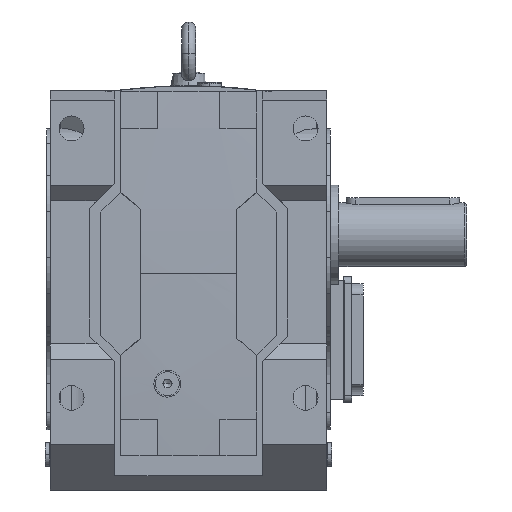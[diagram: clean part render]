
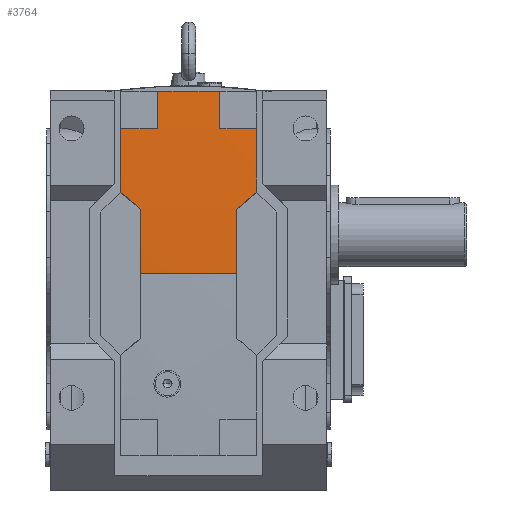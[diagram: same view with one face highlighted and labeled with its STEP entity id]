
A CAD part, front view. The second image highlights one B-rep face of the part: STEP entity #3764.
In plain terms, the highlighted spherical face has radius 2000.58 mm.
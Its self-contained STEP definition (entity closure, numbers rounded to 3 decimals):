
#3764=ADVANCED_FACE('',(#7769),#7770,.T.);
#7769=FACE_OUTER_BOUND('',#12141,.T.);
#7770=SPHERICAL_SURFACE('',#12142,2000.576);
#12141=EDGE_LOOP('',(#22766,#22767,#22768,#22769,#22770,#22771,#22772,#22773,#22774,#22775,#22776,#22777,#22778));
#12142=AXIS2_PLACEMENT_3D('',#22779,#22780,#22781);
#22766=ORIENTED_EDGE('',*,*,#30145,.F.);
#22767=ORIENTED_EDGE('',*,*,#30146,.F.);
#22768=ORIENTED_EDGE('',*,*,#30147,.F.);
#22769=ORIENTED_EDGE('',*,*,#30148,.F.);
#22770=ORIENTED_EDGE('',*,*,#30149,.F.);
#22771=ORIENTED_EDGE('',*,*,#30150,.F.);
#22772=ORIENTED_EDGE('',*,*,#30151,.F.);
#22773=ORIENTED_EDGE('',*,*,#30152,.F.);
#22774=ORIENTED_EDGE('',*,*,#30153,.F.);
#22775=ORIENTED_EDGE('',*,*,#30154,.F.);
#22776=ORIENTED_EDGE('',*,*,#30155,.F.);
#22777=ORIENTED_EDGE('',*,*,#30156,.F.);
#22778=ORIENTED_EDGE('',*,*,#30157,.F.);
#22779=CARTESIAN_POINT('',(0.,1891.576,-27.5));
#22780=DIRECTION('',(0.0,1.0,0.0));
#22781=DIRECTION('',(1.0,0.0,0.0));
#30145=EDGE_CURVE('',#37073,#37074,#37075,.T.);
#30146=EDGE_CURVE('',#37076,#37073,#37077,.T.);
#30147=EDGE_CURVE('',#37078,#37076,#37079,.T.);
#30148=EDGE_CURVE('',#37080,#37078,#37081,.T.);
#30149=EDGE_CURVE('',#37082,#37080,#37083,.T.);
#30150=EDGE_CURVE('',#37084,#37082,#37085,.T.);
#30151=EDGE_CURVE('',#37086,#37084,#37087,.T.);
#30152=EDGE_CURVE('',#37088,#37086,#37089,.T.);
#30153=EDGE_CURVE('',#37090,#37088,#37091,.T.);
#30154=EDGE_CURVE('',#37092,#37090,#37093,.T.);
#30155=EDGE_CURVE('',#37094,#37092,#37095,.T.);
#30156=EDGE_CURVE('',#37096,#37094,#37097,.T.);
#30157=EDGE_CURVE('',#37074,#37096,#37098,.T.);
#37073=VERTEX_POINT('',#48379);
#37074=VERTEX_POINT('',#48380);
#37075=CIRCLE('',#48381,2000.576);
#37076=VERTEX_POINT('',#48382);
#37077=CIRCLE('',#48383,2000.287);
#37078=VERTEX_POINT('',#48384);
#37079=CIRCLE('',#48385,2000.537);
#37080=VERTEX_POINT('',#48386);
#37081=CIRCLE('',#48387,2000.);
#37082=VERTEX_POINT('',#48388);
#37083=CIRCLE('',#48389,1997.948);
#37084=VERTEX_POINT('',#48390);
#37085=CIRCLE('',#48391,2000.455);
#37086=VERTEX_POINT('',#48392);
#37087=CIRCLE('',#48393,1996.445);
#37088=VERTEX_POINT('',#48394);
#37089=CIRCLE('',#48395,2000.455);
#37090=VERTEX_POINT('',#48396);
#37091=CIRCLE('',#48397,1997.948);
#37092=VERTEX_POINT('',#48398);
#37093=CIRCLE('',#48399,2000.);
#37094=VERTEX_POINT('',#48400);
#37095=CIRCLE('',#48401,2000.537);
#37096=VERTEX_POINT('',#48402);
#37097=CIRCLE('',#48403,2000.287);
#37098=CIRCLE('',#48404,2000.576);
#48379=CARTESIAN_POINT('',(34.0,-108.711,-27.5));
#48380=CARTESIAN_POINT('',(0.,-109.,-27.5));
#48381=AXIS2_PLACEMENT_3D('',#56042,#56043,#56044);
#48382=CARTESIAN_POINT('',(34.0,-108.193,18.0));
#48383=AXIS2_PLACEMENT_3D('',#56045,#56046,#56047);
#48384=CARTESIAN_POINT('',(48.0,-107.597,30.0));
#48385=AXIS2_PLACEMENT_3D('',#56048,#56049,#56050);
#48386=CARTESIAN_POINT('',(48.0,-105.796,75.0));
#48387=AXIS2_PLACEMENT_3D('',#56051,#56052,#56053);
#48388=CARTESIAN_POINT('',(22.0,-106.251,75.0));
#48389=AXIS2_PLACEMENT_3D('',#56054,#56055,#56056);
#48390=CARTESIAN_POINT('',(22.0,-104.747,101.0));
#48391=AXIS2_PLACEMENT_3D('',#56057,#56058,#56059);
#48392=CARTESIAN_POINT('',(-22.0,-104.747,101.0));
#48393=AXIS2_PLACEMENT_3D('',#56060,#56061,#56062);
#48394=CARTESIAN_POINT('',(-22.0,-106.251,75.0));
#48395=AXIS2_PLACEMENT_3D('',#56063,#56064,#56065);
#48396=CARTESIAN_POINT('',(-48.0,-105.796,75.0));
#48397=AXIS2_PLACEMENT_3D('',#56066,#56067,#56068);
#48398=CARTESIAN_POINT('',(-48.0,-107.597,30.0));
#48399=AXIS2_PLACEMENT_3D('',#56069,#56070,#56071);
#48400=CARTESIAN_POINT('',(-34.0,-108.193,18.0));
#48401=AXIS2_PLACEMENT_3D('',#56072,#56073,#56074);
#48402=CARTESIAN_POINT('',(-34.0,-108.711,-27.5));
#48403=AXIS2_PLACEMENT_3D('',#56075,#56076,#56077);
#48404=AXIS2_PLACEMENT_3D('',#56078,#56079,#56080);
#56042=CARTESIAN_POINT('',(0.,1891.576,-27.5));
#56043=DIRECTION('',(0.,0.0,-1.0));
#56044=DIRECTION('',(0.0,-1.0,0.0));
#56045=CARTESIAN_POINT('',(34.0,1891.576,-27.5));
#56046=DIRECTION('',(1.0,-0.0,0.0));
#56047=DIRECTION('',(0.0,0.0,-1.0));
#56048=CARTESIAN_POINT('',(-8.082,1891.576,-18.071));
#56049=DIRECTION('',(0.651,0.0,-0.759));
#56050=DIRECTION('',(0.0,1.0,0.0));
#56051=CARTESIAN_POINT('',(48.0,1891.576,-27.5));
#56052=DIRECTION('',(1.0,0.0,-0.0));
#56053=DIRECTION('',(0.0,0.0,1.0));
#56054=CARTESIAN_POINT('',(0.,1891.576,75.0));
#56055=DIRECTION('',(0.0,0.0,1.0));
#56056=DIRECTION('',(0.0,-1.0,0.0));
#56057=CARTESIAN_POINT('',(22.0,1891.576,-27.5));
#56058=DIRECTION('',(1.0,0.0,0.0));
#56059=DIRECTION('',(0.0,0.0,-1.0));
#56060=CARTESIAN_POINT('',(0.,1891.576,101.0));
#56061=DIRECTION('',(0.0,-0.0,1.0));
#56062=DIRECTION('',(0.0,1.0,0.0));
#56063=CARTESIAN_POINT('',(-22.0,1891.576,-27.5));
#56064=DIRECTION('',(-1.0,0.0,0.0));
#56065=DIRECTION('',(0.0,-0.0,1.0));
#56066=CARTESIAN_POINT('',(0.,1891.576,75.0));
#56067=DIRECTION('',(0.0,0.0,1.0));
#56068=DIRECTION('',(0.0,-1.0,0.0));
#56069=CARTESIAN_POINT('',(-48.0,1891.576,-27.5));
#56070=DIRECTION('',(-1.0,-0.0,-0.0));
#56071=DIRECTION('',(0.0,0.0,-1.0));
#56072=CARTESIAN_POINT('',(8.082,1891.576,-18.071));
#56073=DIRECTION('',(-0.651,0.0,-0.759));
#56074=DIRECTION('',(0.0,1.0,0.0));
#56075=CARTESIAN_POINT('',(-34.0,1891.576,-27.5));
#56076=DIRECTION('',(-1.0,0.0,0.0));
#56077=DIRECTION('',(0.0,0.0,1.0));
#56078=CARTESIAN_POINT('',(0.,1891.576,-27.5));
#56079=DIRECTION('',(0.,0.0,-1.0));
#56080=DIRECTION('',(0.0,-1.0,0.0));
